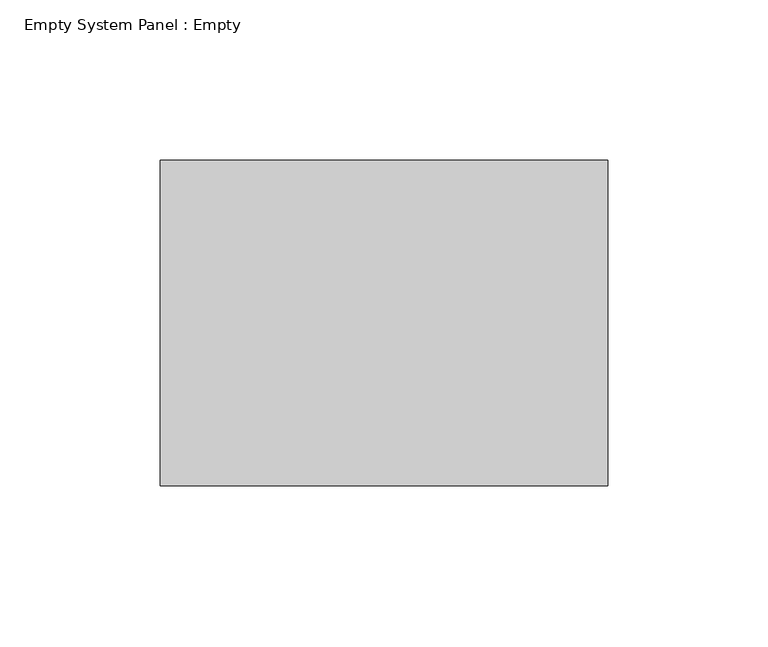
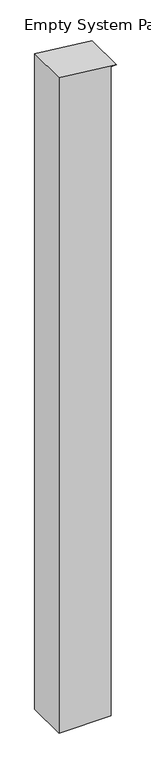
"""IFC4 building model written with IfcOpenShell, lengths in millimetres: plate geometry, Empty System Panel : Empty."""

from ifc_helpers import new_model, si_unit, frame, origin, place, context, project, spatial, polyline, outline, extrude, source, transform, mapped, element, save


def empty_system_panel_empty_90afa87d(model_context):
    return source(origin(), model_context, "Body", "SweptSolid", [
        extrude(outline(polyline([(0.0, -69.85), (0.0, 57.15), (1667.4799982, 57.15), (1667.4799982, 69.85), (1683.1051881, -69.85), (0.0, -69.85)])), frame((0.0, -50.8, 0.0), z_axis=(0.0, 1.0, 0.0), x_axis=(0.0, 0.0, 1.0)), (0.0, 0.0, 1.0), 101.6),
    ])


if __name__ == "__main__":
    model = new_model("IFC4")
    model_context = context("Model", 3, world=origin())
    ifc_project = project(units=[si_unit("LENGTHUNIT", "METRE", prefix="MILLI")], contexts=[model_context])
    site = spatial("IfcSite", under=ifc_project)
    building = spatial("IfcBuilding", under=site)
    placement = place(None, origin())
    empty_system_panel_empty_shape = empty_system_panel_empty_90afa87d(model_context)
    element("IfcPlate", 1, ObjectType="Empty System Panel : Empty", at=placement, inside=building, context=model_context, shape_type="MappedRepresentation", body=[
        mapped(empty_system_panel_empty_shape, transform((0.0, 0.0, 0.0), x_axis=(1.0, 0.0, 0.0), y_axis=(0.0, 1.0, 0.0), z_axis=(0.0, 0.0, 1.0))),
    ])
    save(model, "model.ifc")
